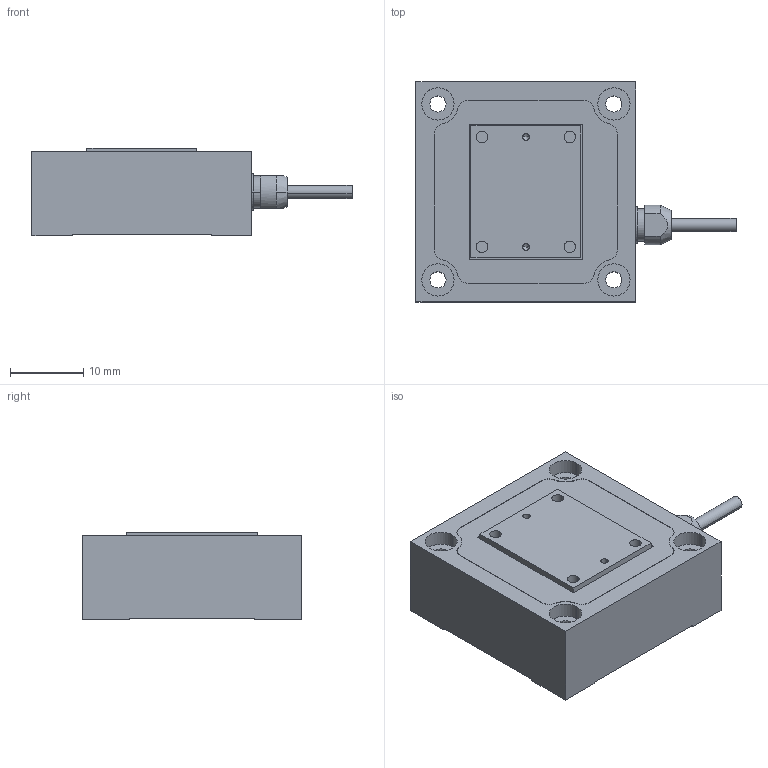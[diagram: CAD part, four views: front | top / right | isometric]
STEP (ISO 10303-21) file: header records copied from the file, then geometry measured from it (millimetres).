
FILE_DESCRIPTION (( 'STEP AP203' ), '1' );
FILE_NAME ('P-620.1XX.STEP', '2014-02-12T12:56:03', ( 'test' ), ( '' ), 'SwSTEP 2.0', 'SolidWorks 2012', '' );
FILE_SCHEMA (( 'CONFIG_CONTROL_DESIGN' ));
Length unit declared in the file: millimetre
Products named in the file (1): P-620.1XX
Bounding box: 43.66 x 30 x 12 mm (x, y, z)
Volume: 9225 mm3; surface area: 7021.8 mm2
Topology: 9 solids, 9 shells, 360 faces, 934 edges, 583 vertices
Faces by surface type: cylinder 156, plane 133, cone 55, torus 16
Entity records: 11535 total; most frequent: CARTESIAN_POINT 2412, DIRECTION 1988, ORIENTED_EDGE 1836, EDGE_CURVE 918, AXIS2_PLACEMENT_3D 751, VERTEX_POINT 583, LINE 486, VECTOR 486
